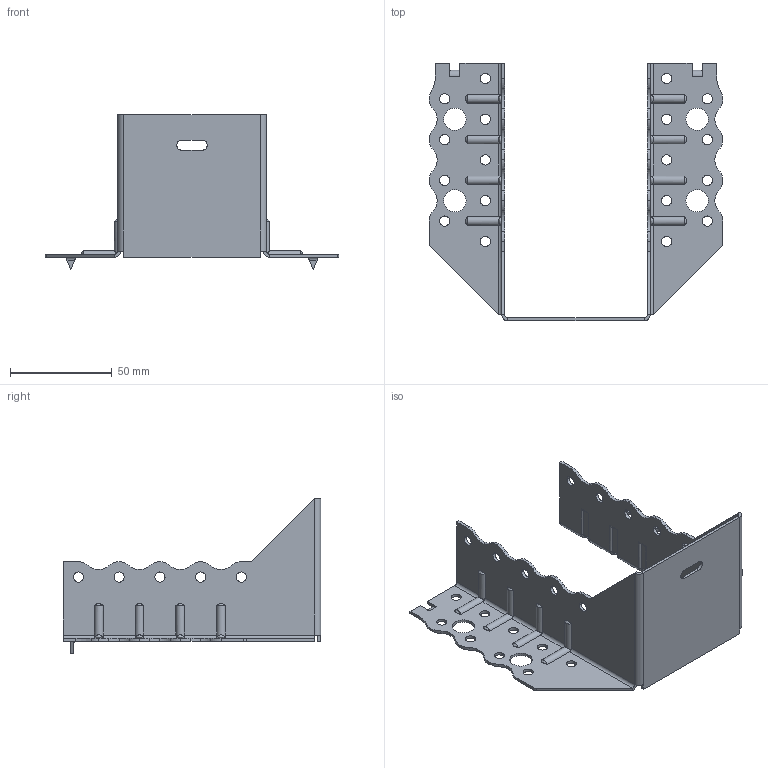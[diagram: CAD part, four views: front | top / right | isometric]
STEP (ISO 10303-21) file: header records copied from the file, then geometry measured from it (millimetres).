
FILE_DESCRIPTION (( 'STEP AP203' ), '1' );
FILE_NAME ('30611TOP.STEP', '2021-04-07T12:33:58', ( '' ), ( '' ), 'SwSTEP 2.0', 'SolidWorks 2013', '' );
FILE_SCHEMA (( 'CONFIG_CONTROL_DESIGN' ));
Length unit declared in the file: millimetre
Products named in the file (1): 30611TOP
Bounding box: 144 x 126.5 x 76 mm (x, y, z)
Volume: 32369.2 mm3; surface area: 46102.6 mm2
Topology: 1 solids, 1 shells, 359 faces, 963 edges, 606 vertices
Faces by surface type: cylinder 221, plane 106, torus 16, bspline 16
Entity records: 13198 total; most frequent: CARTESIAN_POINT 4091, ORIENTED_EDGE 1926, DIRECTION 1865, EDGE_CURVE 963, AXIS2_PLACEMENT_3D 678, VERTEX_POINT 606, LINE 509, VECTOR 509
